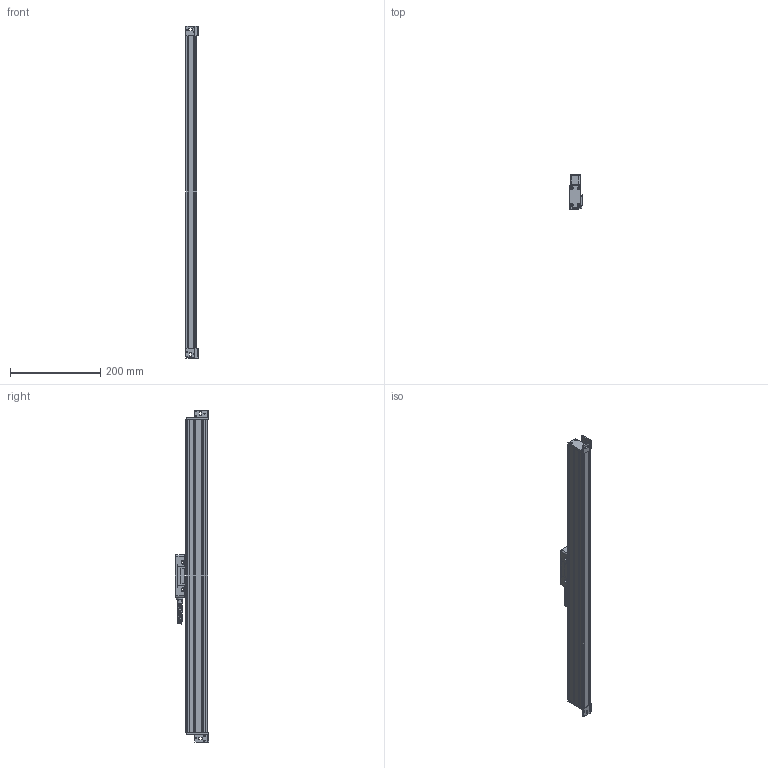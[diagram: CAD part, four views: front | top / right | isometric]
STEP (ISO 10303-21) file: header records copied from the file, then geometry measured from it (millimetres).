
FILE_DESCRIPTION (( 'STEP AP214' ), '1' );
FILE_NAME ('MLC310x0570.STEP', '2021-05-08T11:50:35', ( '' ), ( '' ), 'SwSTEP 2.0', 'SolidWorks 2014', '' );
FILE_SCHEMA (( 'AUTOMOTIVE_DESIGN' ));
Length unit declared in the file: millimetre
Products named in the file (1): MLC310x0570
Bounding box: 27 x 75.15 x 734 mm (x, y, z)
Surface area: 136329.5 mm2 (no closed solid volume)
Topology: 0 solids, 23 shells, 435 faces, 1416 edges, 996 vertices
Faces by surface type: plane 179, cylinder 143, cone 77, bspline 28, torus 8
Entity records: 30558 total; most frequent: CARTESIAN_POINT 13708, DIRECTION 2456, ORIENTED_EDGE 2265, EDGE_CURVE 1410, VERTEX_POINT 996, AXIS2_PLACEMENT_3D 850, VECTOR 756, LINE 756
